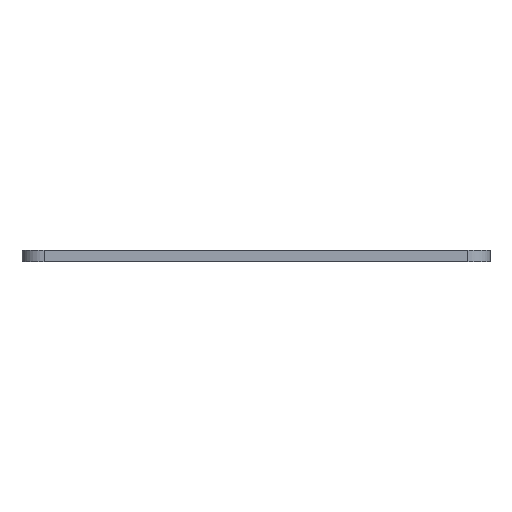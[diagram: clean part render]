
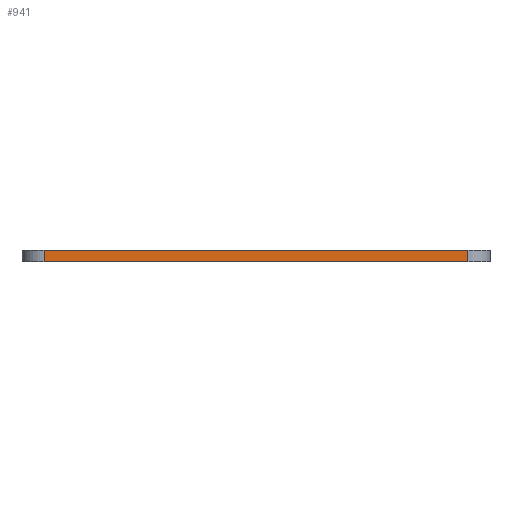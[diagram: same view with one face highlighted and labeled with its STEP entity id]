
A CAD part, front view. The second image highlights one B-rep face of the part: STEP entity #941.
In plain terms, the highlighted planar face has unit normal (0, -1, 0).
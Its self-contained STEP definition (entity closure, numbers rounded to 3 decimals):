
#52=PLANE('',#1039);
#64=VECTOR('',#1077,1.);
#115=VECTOR('',#1228,1.);
#132=VECTOR('',#1292,1.);
#133=VECTOR('',#1294,1.);
#145=LINE('',#1343,#64);
#196=LINE('',#1510,#115);
#213=LINE('',#1566,#132);
#214=LINE('',#1568,#133);
#236=VERTEX_POINT('',#1342);
#237=VERTEX_POINT('',#1344);
#297=VERTEX_POINT('',#1509);
#298=VERTEX_POINT('',#1511);
#383=EDGE_CURVE('',#237,#236,#145,.T.);
#470=EDGE_CURVE('',#298,#297,#196,.T.);
#496=EDGE_CURVE('',#236,#298,#213,.T.);
#497=EDGE_CURVE('',#237,#297,#214,.T.);
#761=ORIENTED_EDGE('',*,*,#470,.T.);
#762=ORIENTED_EDGE('',*,*,#497,.F.);
#763=ORIENTED_EDGE('',*,*,#383,.T.);
#764=ORIENTED_EDGE('',*,*,#496,.T.);
#831=EDGE_LOOP('',(#761,#762,#763,#764));
#892=FACE_BOUND('',#831,.T.);
#941=ADVANCED_FACE('',(#892),#52,.T.);
#1039=AXIS2_PLACEMENT_3D('',#1567,#1293,$);
#1077=DIRECTION('',(1.,0.,0.));
#1228=DIRECTION('',(-1.,0.,0.));
#1292=DIRECTION('',(0.,0.,1.));
#1293=DIRECTION('',(0.,-1.,0.));
#1294=DIRECTION('',(0.,0.,1.));
#1342=CARTESIAN_POINT('',(38.,-38.5,-1.));
#1343=CARTESIAN_POINT('',(-38.,-38.5,-1.));
#1344=CARTESIAN_POINT('',(-38.,-38.5,-1.));
#1509=CARTESIAN_POINT('',(-38.,-38.5,1.));
#1510=CARTESIAN_POINT('',(-38.,-38.5,1.));
#1511=CARTESIAN_POINT('',(38.,-38.5,1.));
#1566=CARTESIAN_POINT('',(38.,-38.5,-1.));
#1567=CARTESIAN_POINT('',(0.,-38.5,-1.));
#1568=CARTESIAN_POINT('',(-38.,-38.5,-1.));
